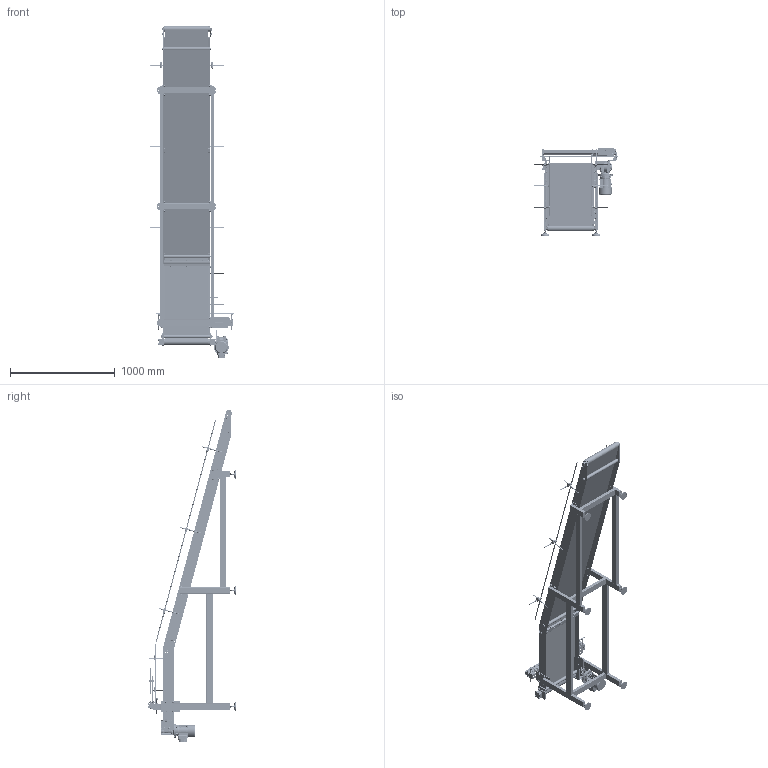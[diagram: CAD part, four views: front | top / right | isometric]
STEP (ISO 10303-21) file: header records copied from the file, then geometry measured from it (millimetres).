
FILE_DESCRIPTION(/* description */ (''),/* implementation_level */ '2;1');
FILE_NAME(/* name */ 'beltconveyor_a022_w400_l3000.stp',/* time_stamp */ '2024-12-15T20:53:50+08:00',/* author */ (''),/* organization */ (''),/* preprocessor_version */ 'ST-DEVELOPER v16.7',/* originating_system */ 'SIEMENS PLM Software NX 12.0',/* authorisation */ '');
FILE_SCHEMA (('AUTOMOTIVE_DESIGN { 1 0 10303 214 3 1 1 1 }'));
Products named in the file (1): beltconveyor_a022_w400_l3000
Bounding box: 811.6 x 835.5 x 3172.92 mm (x, y, z)
Volume: 26138193 mm3; surface area: 15419756.1 mm2
Topology: 464 solids, 475 shells, 16465 faces, 39866 edges, 24359 vertices
Faces by surface type: plane 5728, cylinder 4425, cone 3758, bspline 1020, torus 821, extrusion 369, sphere 344
Entity records: 563231 total; most frequent: CARTESIAN_POINT 168062, DIRECTION 79027, ORIENTED_EDGE 78604, EDGE_CURVE 39302, AXIS2_PLACEMENT_3D 30234, VERTEX_POINT 24359, VECTOR 18559, LINE 18190
